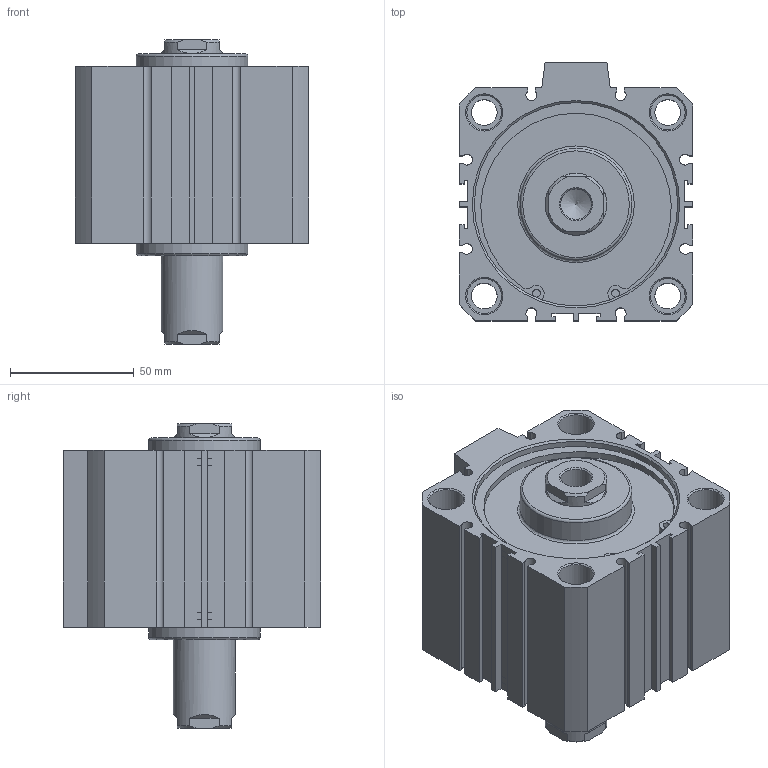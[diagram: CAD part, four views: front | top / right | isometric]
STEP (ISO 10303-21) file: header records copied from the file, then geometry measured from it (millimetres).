
FILE_DESCRIPTION((''),'2;1');
FILE_NAME('I:\3D電子目錄\氣缸\JDD\JDD\JDD80\JDD80x30.stp','2007-02-08T11:47:43',('662F206'),(''),'Autodesk Inventor 10','Autodesk Inventor 10','');
FILE_SCHEMA(('AUTOMOTIVE_DESIGN { 1 0 10303 214 1 1 1 1 }'));
Length unit declared in the file: millimetre
Products named in the file (3): JDD80; R 形環 82
Assembly tree (3 placements, depth 2):
  JDD80
    JDD80
    R 形環 82  x2
Bounding box: 94 x 104 x 122.7 mm (x, y, z)
Volume: 579767.5 mm3; surface area: 84976.9 mm2
Topology: 3 solids, 3 shells, 200 faces, 502 edges, 330 vertices
Faces by surface type: plane 116, cylinder 52, cone 24, bspline 6, torus 2
Full cylindrical faces by diameter (mm): 3.1 x4, 3.5 x2, 10.4 x4, 14 x8, 25 x2, 45 x2, 82 x4, 85.5 x2
Entity records: 5511 total; most frequent: CARTESIAN_POINT 1094, DIRECTION 908, ORIENTED_EDGE 824, EDGE_CURVE 412, AXIS2_PLACEMENT_3D 324, VERTEX_POINT 300, EDGE_LOOP 272, VECTOR 260
